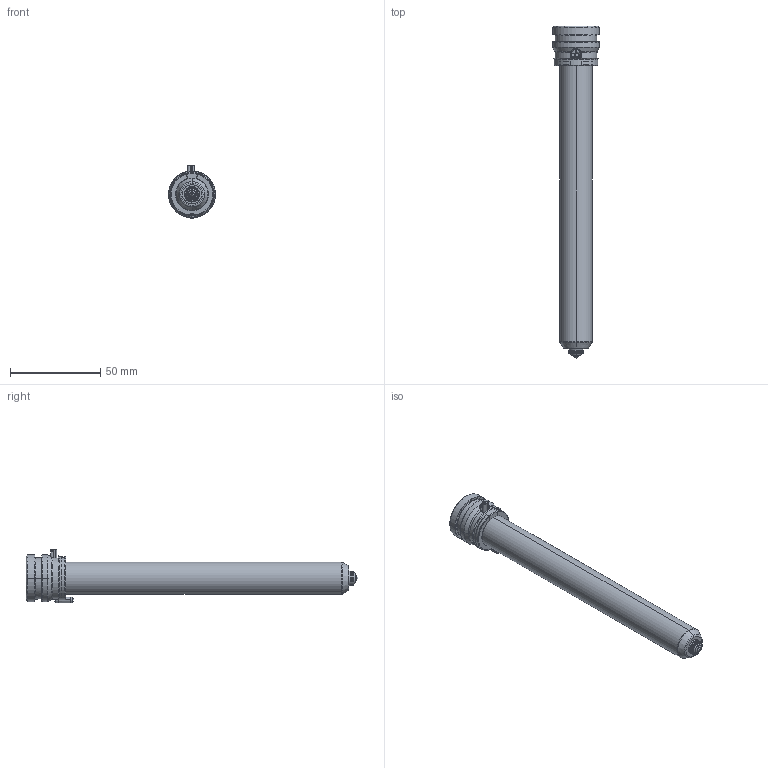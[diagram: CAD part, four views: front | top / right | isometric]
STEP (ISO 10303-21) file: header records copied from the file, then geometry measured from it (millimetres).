
FILE_DESCRIPTION((''),'2;1');
FILE_NAME('TH18166-A-1GLT-PK-JG','2023-12-14T',('umhib'),('Thermoplay S.p.A.'),'PRO/ENGINEER BY PARAMETRIC TECHNOLOGY CORPORATION, 2017170','PRO/ENGINEER BY PARAMETRIC TECHNOLOGY CORPORATION, 2017170','');
FILE_SCHEMA(('CONFIG_CONTROL_DESIGN'));
Length unit declared in the file: millimetre
Products named in the file (1): TH18166-A-1GLT-PK-JG
Bounding box: 26 x 184 x 29.5 mm (x, y, z)
Volume: 36730 mm3; surface area: 26924.6 mm2
Topology: 1 solids, 2 shells, 418 faces, 1085 edges, 675 vertices
Faces by surface type: cylinder 162, plane 90, cone 68, torus 62, bspline 24, sphere 10, extrusion 2
Entity records: 18142 total; most frequent: CARTESIAN_POINT 5862, DIRECTION 2187, ORIENTED_EDGE 2146, EDGE_CURVE 1075, AXIS2_PLACEMENT_3D 886, VERTEX_POINT 675, CIRCLE 493, EDGE_LOOP 443
